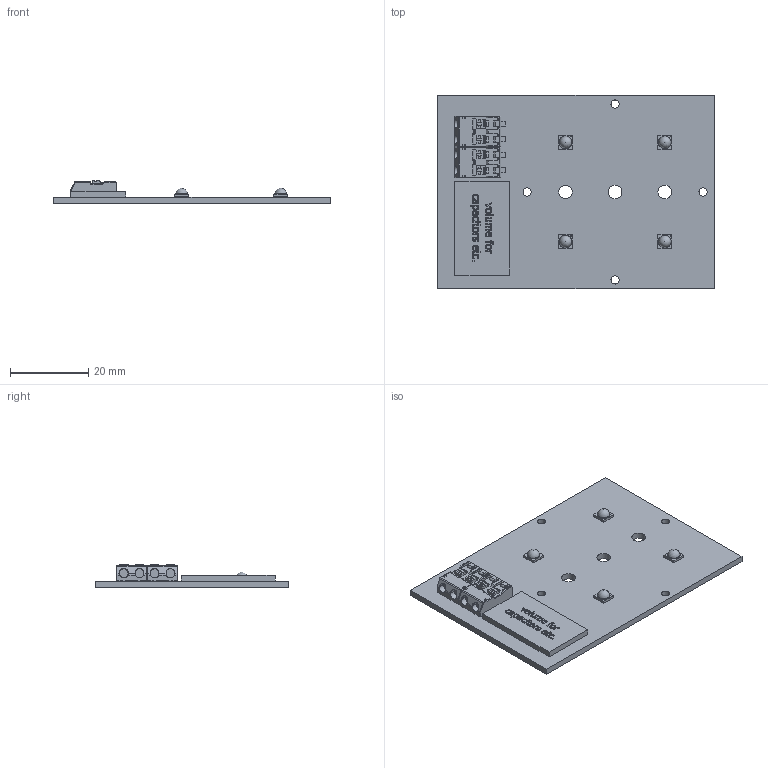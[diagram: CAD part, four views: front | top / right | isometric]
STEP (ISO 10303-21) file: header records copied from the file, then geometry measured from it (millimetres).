
FILE_DESCRIPTION(/* description */ (''),/* implementation_level */ '2;1');
FILE_NAME(/* name */ 'C:\FastFlex 2x2 DA Gen4.stp',/* time_stamp */ '2019-01-17T12:31:01+01:00',/* author */ ('nlv21627'),/* organization */ (''),/* preprocessor_version */ 'ST-DEVELOPER v16.5',/* originating_system */ 'Autodesk Inventor 2017',/* authorisation */ '');
FILE_SCHEMA (('AUTOMOTIVE_DESIGN { 1 0 10303 214 3 1 1 }'));
Length unit declared in the file: millimetre
Products named in the file (1): 4422-409-57740_simplified
Bounding box: 70.6 x 49.5 x 5.85 mm (x, y, z)
Volume: 6751.6 mm3; surface area: 8238.1 mm2
Topology: 1 solids, 17 shells, 1177 faces, 3193 edges, 2073 vertices
Faces by surface type: plane 667, cylinder 235, bspline 199, torus 44, cone 28, sphere 4
Full cylindrical faces by diameter (mm): 0.1 x16, 2.1 x4, 3.5 x3
Entity records: 40402 total; most frequent: CARTESIAN_POINT 11214, ORIENTED_EDGE 6222, DIRECTION 5234, EDGE_CURVE 3111, LINE 2166, VECTOR 2166, VERTEX_POINT 2038, AXIS2_PLACEMENT_3D 1534
